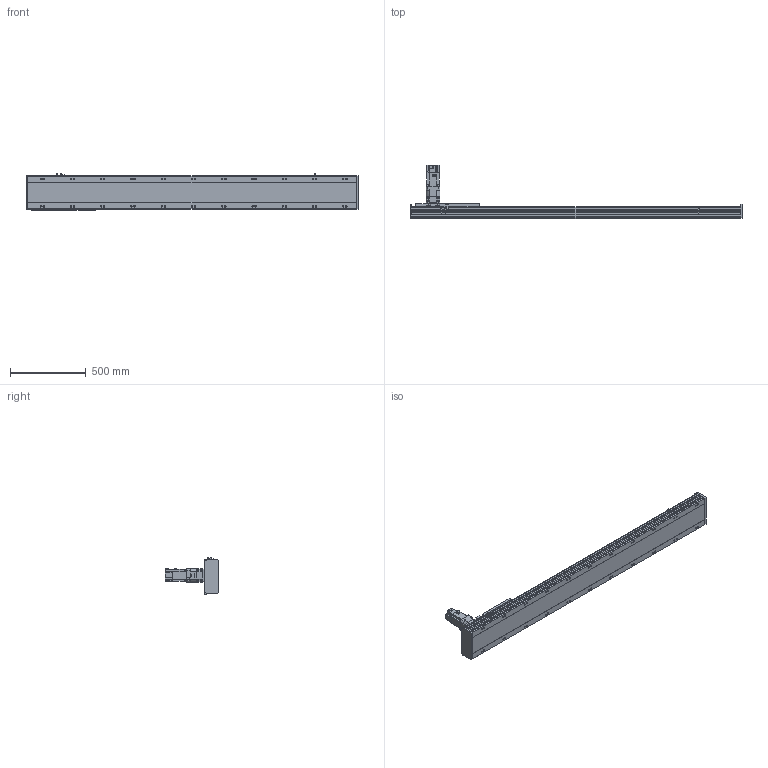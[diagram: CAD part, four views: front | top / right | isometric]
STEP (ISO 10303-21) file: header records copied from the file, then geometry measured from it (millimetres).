
FILE_DESCRIPTION(/* description */ ('STEP AP214'),/* implementation_level */ '2;1');
FILE_NAME(/* name */ 'SHS22A-L13-S1700-BC-T75-C1-N(0)',/* time_stamp */ '2022-06-15T02:26:47+02:00',/* author */ ('License CC BY-ND 4.0'),/* organization */ ('CADENAS'),/* preprocessor_version */ 'ST-DEVELOPER v18.102',/* originating_system */ 'PARTsolutions',/* authorisation */ ' ');
FILE_SCHEMA (('FEATURE_BASED_PROCESS_PLANNING','AUTOMOTIVE_DESIGN {1 0 10303 214 3 1 1}'));
Length unit declared in the file: millimetre
Products named in the file (7): SHS22A-L13-S1700-BC-T75-C1-N(0); PSC140-sensor; SHS22A-S1700_body2; T75-p1; SHS22A-S1700_body3; SHS22A-S1700_slider; SHS22A-L13-S1700-BC-T75-C1(0)_body
Assembly tree (13 placements, depth 2):
  SHS22A-L13-S1700-BC-T75-C1-N(0)
    PSC140-sensor  x3
    SHS22A-S1700_body2  x6
    T75-p1
    SHS22A-S1700_body3
    SHS22A-S1700_slider
    SHS22A-L13-S1700-BC-T75-C1(0)_body
Bounding box: 2194 x 350.8 x 238.4 mm (x, y, z)
Volume: 25306171.9 mm3; surface area: 2665920.3 mm2
Topology: 13 solids, 13 shells, 1833 faces, 4723 edges, 3094 vertices
Faces by surface type: plane 1324, cylinder 413, cone 87, torus 9
Full cylindrical faces by diameter (mm): 2.8 x3, 4.2 x2, 4.6 x3, 4.917 x4, 5 x4, 5.6 x24, 6 x31, 6.6 x24, 6.647 x8, 6.8 x9, 7.75 x6, 8 x3, 8.376 x22, 8.5 x22, 10 x4, 11 x4, 12 x24, 14 x22, 22 x1, 24.1 x1, 28 x1, 28.2 x1, 28.8 x1, 48.542 x1, 68 x1, 70 x1, 78 x1, 80 x2
Entity records: 30034 total; most frequent: CARTESIAN_POINT 5339, DIRECTION 5081, ORIENTED_EDGE 4656, EDGE_CURVE 2328, AXIS2_PLACEMENT_3D 1758, VERTEX_POINT 1662, LINE 1565, VECTOR 1565
